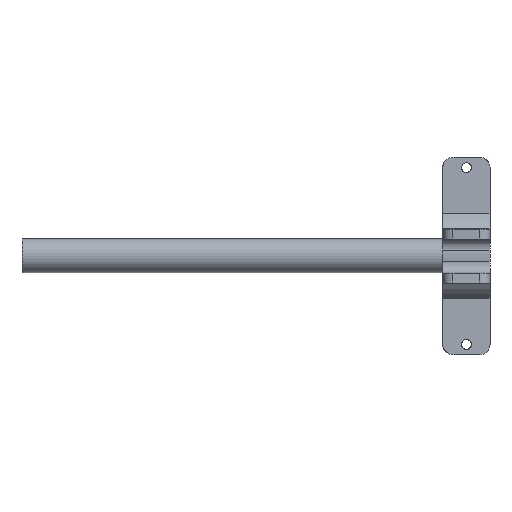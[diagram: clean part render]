
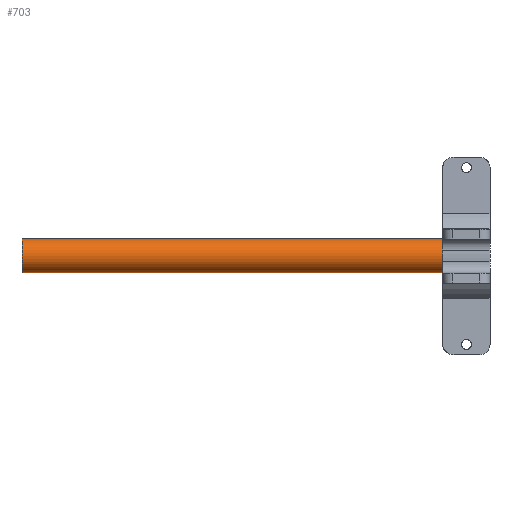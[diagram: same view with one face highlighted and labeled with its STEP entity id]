
A CAD part, left-side view. The second image highlights one B-rep face of the part: STEP entity #703.
In plain terms, the highlighted cylindrical face has radius 5 mm (diameter 10 mm), a partial arc.
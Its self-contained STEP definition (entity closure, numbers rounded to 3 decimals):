
#9 = CARTESIAN_POINT ( 'NONE',  ( 0.178, 139., -4.947 ) ) ;
#90 = VERTEX_POINT ( 'NONE', #9 ) ;
#107 = DIRECTION ( 'NONE',  ( 0., -1., 0. ) ) ;
#195 = DIRECTION ( 'NONE',  ( 0., 1., 0. ) ) ;
#212 = EDGE_CURVE ( 'NONE', #90, #2328, #900, .T. ) ;
#256 = LINE ( 'NONE', #1141, #2291 ) ;
#258 = EDGE_LOOP ( 'NONE', ( #903, #2095, #2508, #851 ) ) ;
#277 = CARTESIAN_POINT ( 'NONE',  ( 0.178, 14., 0.053 ) ) ;
#317 = AXIS2_PLACEMENT_3D ( 'NONE', #277, #695, #1362 ) ;
#346 = CARTESIAN_POINT ( 'NONE',  ( 0.178, 139., 0.053 ) ) ;
#373 = CARTESIAN_POINT ( 'NONE',  ( 0.178, 14., -4.947 ) ) ;
#407 = VERTEX_POINT ( 'NONE', #2524 ) ;
#412 = CARTESIAN_POINT ( 'NONE',  ( 0.178, 139., 0.053 ) ) ;
#447 = AXIS2_PLACEMENT_3D ( 'NONE', #412, #195, #1263 ) ;
#695 = DIRECTION ( 'NONE',  ( 0., 1., 0. ) ) ;
#703 = ADVANCED_FACE ( 'NONE', ( #1763 ), #958, .T. ) ;
#851 = ORIENTED_EDGE ( 'NONE', *, *, #2577, .T. ) ;
#900 = LINE ( 'NONE', #1143, #1599 ) ;
#903 = ORIENTED_EDGE ( 'NONE', *, *, #1839, .F. ) ;
#947 = DIRECTION ( 'NONE',  ( 0., -1., 0. ) ) ;
#958 = CYLINDRICAL_SURFACE ( 'NONE', #1464, 5. ) ;
#1102 = DIRECTION ( 'NONE',  ( 0., -1., 0. ) ) ;
#1141 = CARTESIAN_POINT ( 'NONE',  ( 0.178, 139., 5.053 ) ) ;
#1143 = CARTESIAN_POINT ( 'NONE',  ( 0.178, 139., -4.947 ) ) ;
#1225 = CARTESIAN_POINT ( 'NONE',  ( 0.178, 14., 5.053 ) ) ;
#1263 = DIRECTION ( 'NONE',  ( 0., 0., 1. ) ) ;
#1362 = DIRECTION ( 'NONE',  ( 0., 0., 1. ) ) ;
#1364 = EDGE_CURVE ( 'NONE', #90, #407, #2338, .T. ) ;
#1464 = AXIS2_PLACEMENT_3D ( 'NONE', #346, #947, #1859 ) ;
#1528 = VERTEX_POINT ( 'NONE', #1225 ) ;
#1599 = VECTOR ( 'NONE', #107, 1000. ) ;
#1700 = CIRCLE ( 'NONE', #317, 5. ) ;
#1763 = FACE_OUTER_BOUND ( 'NONE', #258, .T. ) ;
#1839 = EDGE_CURVE ( 'NONE', #407, #1528, #256, .T. ) ;
#1859 = DIRECTION ( 'NONE',  ( 0., 0., -1. ) ) ;
#2095 = ORIENTED_EDGE ( 'NONE', *, *, #1364, .F. ) ;
#2291 = VECTOR ( 'NONE', #1102, 1000. ) ;
#2328 = VERTEX_POINT ( 'NONE', #373 ) ;
#2338 = CIRCLE ( 'NONE', #447, 5. ) ;
#2508 = ORIENTED_EDGE ( 'NONE', *, *, #212, .T. ) ;
#2524 = CARTESIAN_POINT ( 'NONE',  ( 0.178, 139., 5.053 ) ) ;
#2577 = EDGE_CURVE ( 'NONE', #2328, #1528, #1700, .T. ) ;
